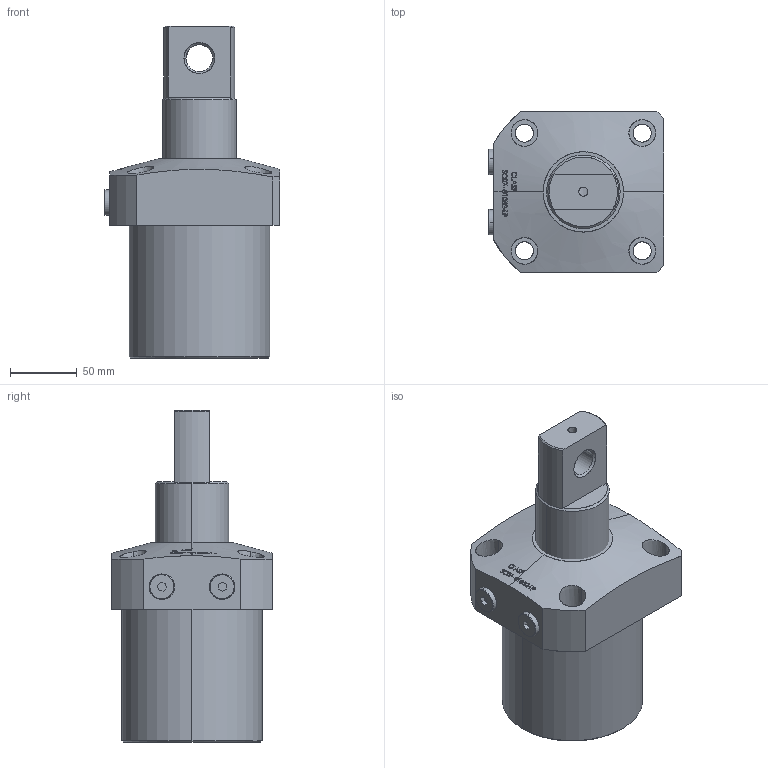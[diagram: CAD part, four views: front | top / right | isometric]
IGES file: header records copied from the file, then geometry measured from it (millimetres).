
Start section: SolidWorks IGES file using analytic representation for surfaces
Global section: file name: D:\karuppas\Clasp\3D model\SWING CYLINDER\Top Mounting swing cylinder-P type\SC07-01052-LP\SC07-01052-LP.IGS; native system: SolidWorks 2017; preprocessor: SolidWorks 2017; author: pc; date: 220708.223028; units: millimetre
Bounding box: 131 x 120 x 248 mm (x, y, z)
Surface area: 118199.7 mm2 (no closed solid volume)
Topology: 0 solids, 0 shells, 328 faces, 5907 edges, 5907 vertices
Faces by surface type: bspline 249, revolution 79
